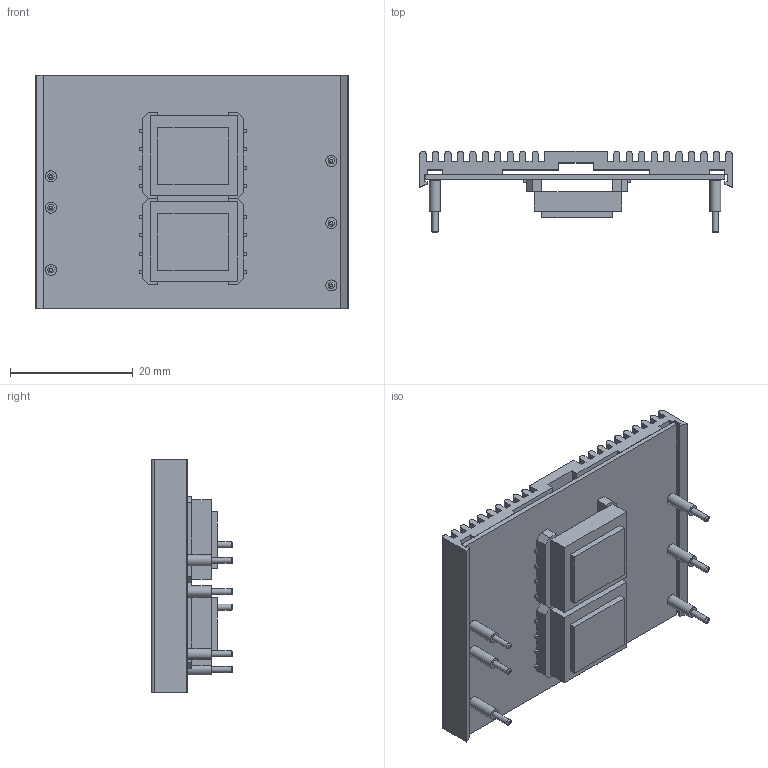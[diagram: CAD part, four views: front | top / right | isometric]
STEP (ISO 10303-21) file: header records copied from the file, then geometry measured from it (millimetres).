
FILE_DESCRIPTION((''),'2;1');
FILE_NAME('C:\Users\shirley\Desktop\NSD15-S.stp','2019-11-14T10:47:03',('shirley'),(''),'Autodesk Inventor 2010','Autodesk Inventor 2010','');
FILE_SCHEMA(('AUTOMOTIVE_DESIGN { 1 0 10303 214 1 1 1 1 }'));
Length unit declared in the file: millimetre
Products named in the file (11): NSD15-S; HS-017B; PCB; PIN_CPY4_CPY; TF; PIN_CPY4_CPY_CPY; PIN_CPY4_CPY_CPY1; PIN_CPY4_CPY_CPY2; PIN_CPY4_CPY_CPY3; PIN_CPY4_CPY_CPY4; TF_CPY2
Assembly tree (10 placements, depth 2):
  NSD15-S
    HS-017B
    PCB
    PIN_CPY4_CPY
    TF
    PIN_CPY4_CPY_CPY
    PIN_CPY4_CPY_CPY1
    PIN_CPY4_CPY_CPY2
    PIN_CPY4_CPY_CPY3
    PIN_CPY4_CPY_CPY4
    TF_CPY2
Bounding box: 50.9 x 13.31 x 38.1 mm (x, y, z)
Volume: 8210.2 mm3; surface area: 13115.2 mm2
Topology: 10 solids, 10 shells, 296 faces, 880 edges, 714 vertices
Faces by surface type: plane 238, cylinder 52, bspline 6
Full cylindrical faces by diameter (mm): 1 x12, 1.15 x6, 1.8 x6
Entity records: 10427 total; most frequent: CARTESIAN_POINT 2043, DIRECTION 1594, ORIENTED_EDGE 1484, EDGE_CURVE 742, VECTOR 716, LINE 716, VERTEX_POINT 510, AXIS2_PLACEMENT_3D 439
